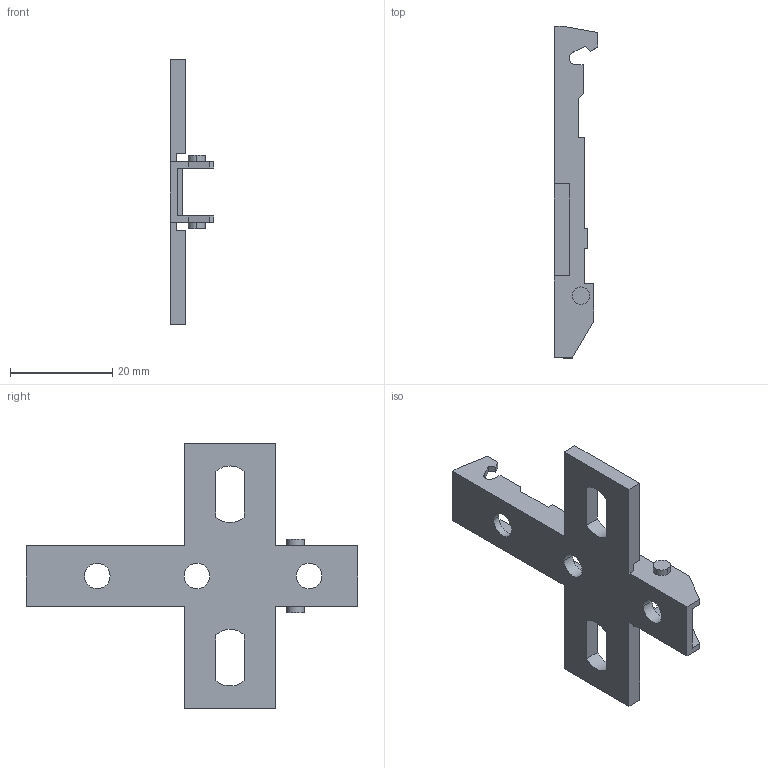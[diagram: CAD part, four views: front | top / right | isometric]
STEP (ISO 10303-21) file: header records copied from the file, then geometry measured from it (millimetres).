
FILE_DESCRIPTION (( 'STEP AP214' ), '1' );
FILE_NAME ('Eco Kreuzmontageplatte LR37_32_Euro_H-02.step', '2010-11-18T10:06:02', ( 'grass' ), ( '' ), 'SwSTEP 2.0', 'SolidWorks 2010', '' );
FILE_SCHEMA (( 'AUTOMOTIVE_DESIGN' ));
Length unit declared in the file: millimetre
Products named in the file (1): Eco Kreuzmontageplatte LR37_32_Euro_H-02
Bounding box: 8.5 x 65 x 52 mm (x, y, z)
Volume: 3702.4 mm3; surface area: 4696.1 mm2
Topology: 1 solids, 1 shells, 83 faces, 237 edges, 158 vertices
Faces by surface type: plane 65, cylinder 18
Entity records: 2741 total; most frequent: CARTESIAN_POINT 479, ORIENTED_EDGE 474, DIRECTION 441, EDGE_CURVE 237, LINE 201, VECTOR 201, VERTEX_POINT 158, AXIS2_PLACEMENT_3D 120
